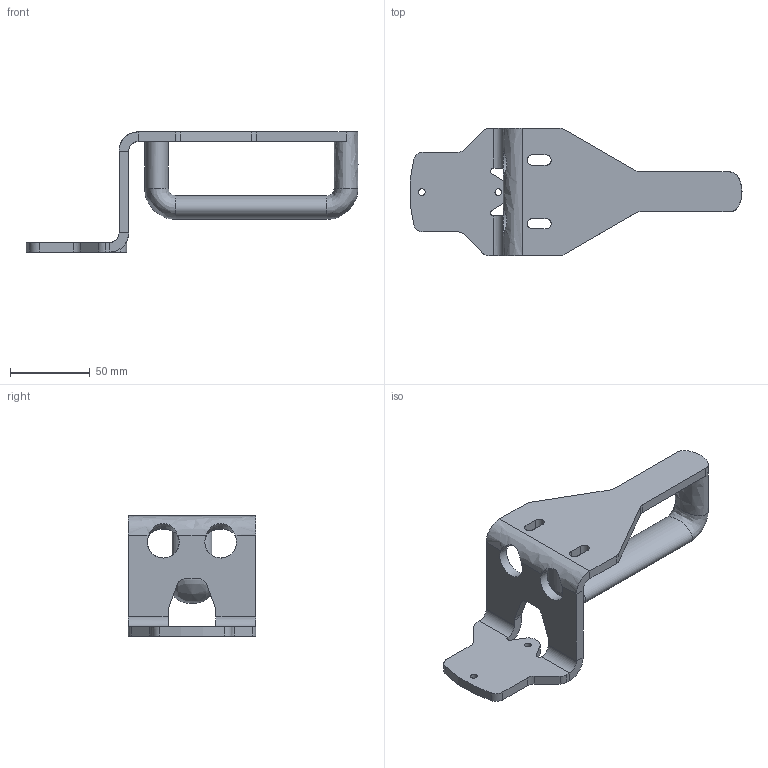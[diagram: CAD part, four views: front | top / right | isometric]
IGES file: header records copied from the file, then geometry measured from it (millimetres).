
Global section: file name: 2037689_A_Handgriff PSENmg 70; native system: Autodesk Inventor 2024; preprocessor: unknown; author: EW-PE; date: 20250410.092633; units: millimetre
Bounding box: 208.42 x 80 x 75.45 mm (x, y, z)
Volume: 138293.8 mm3; surface area: 45021.3 mm2
Topology: 1 solids, 1 shells, 74 faces, 214 edges, 135 vertices
Faces by surface type: bspline 74
